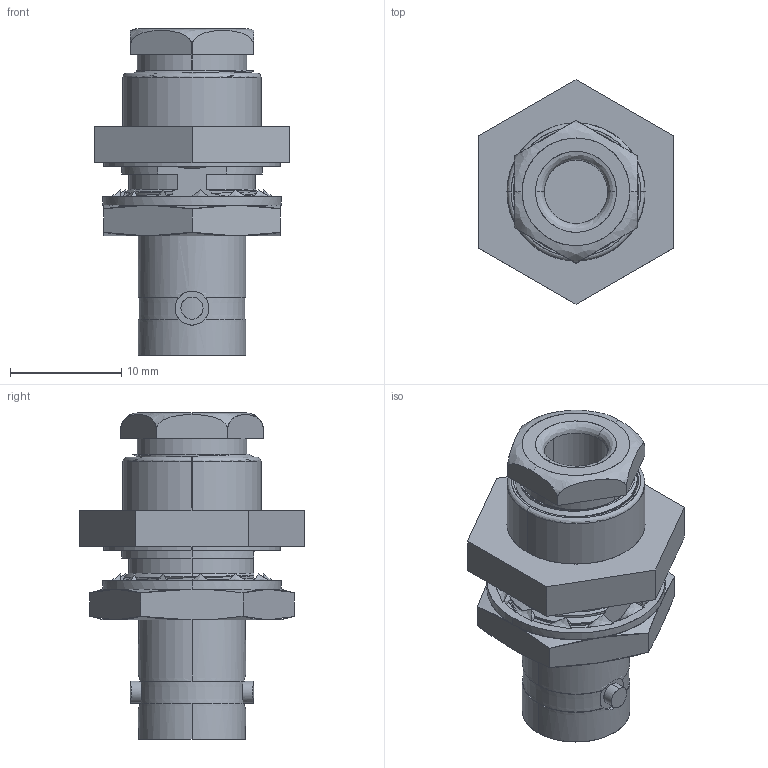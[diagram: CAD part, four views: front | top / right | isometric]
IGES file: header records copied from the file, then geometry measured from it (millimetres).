
Start section: SolidWorks IGES file using analytic representation for surfaces
Global section: file name: C:\Users\sculpepper\Desktop\mouser\1016015A59E-000\1016015A59E-000igs.IGS; native system: SolidWorks 2019; preprocessor: SolidWorks 2019; author: sculpepper; date: 210429.161304; units: inch
Bounding box: 17.45 x 20.15 x 29.34 mm (x, y, z)
Surface area: 2935 mm2 (no closed solid volume)
Topology: 0 solids, 0 shells, 286 faces, 3961 edges, 3959 vertices
Faces by surface type: bspline 172, revolution 114
